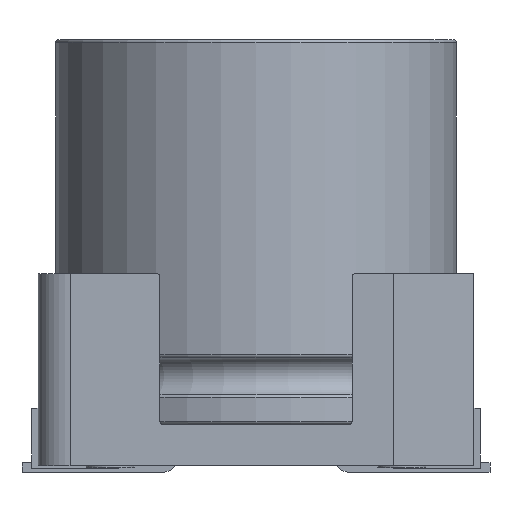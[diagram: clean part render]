
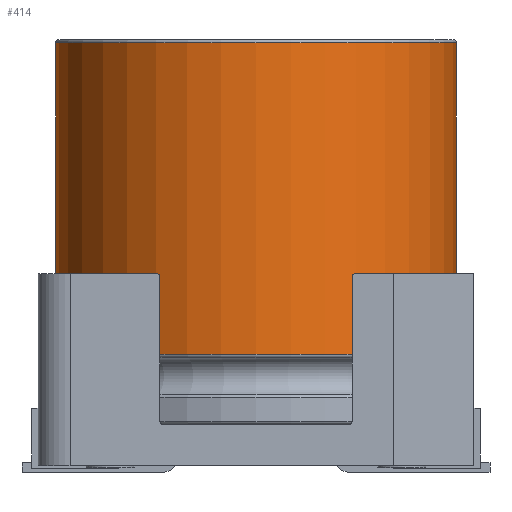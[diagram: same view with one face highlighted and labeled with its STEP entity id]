
A CAD part, front view. The second image highlights one B-rep face of the part: STEP entity #414.
In plain terms, the highlighted cylindrical face has radius 6.25 mm (diameter 12.5 mm), a full revolution.
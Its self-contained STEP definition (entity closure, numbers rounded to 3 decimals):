
#144=CYLINDRICAL_SURFACE('',#3352,6.25);
#414=ADVANCED_FACE('',(#1339,#1340),#144,.T.);
#1339=FACE_BOUND('',#1421,.T.);
#1340=FACE_BOUND('',#1422,.T.);
#1421=EDGE_LOOP('',(#1851));
#1422=EDGE_LOOP('',(#1852));
#1851=ORIENTED_EDGE('',*,*,#2887,.T.);
#1852=ORIENTED_EDGE('',*,*,#2888,.T.);
#2551=VERTEX_POINT('',#4866);
#2552=VERTEX_POINT('',#4868);
#2887=EDGE_CURVE('',#2551,#2551,#3197,.T.);
#2888=EDGE_CURVE('',#2552,#2552,#3198,.T.);
#3197=CIRCLE('',#3350,6.25);
#3198=CIRCLE('',#3351,6.25);
#3350=AXIS2_PLACEMENT_3D('',#4865,#3840,#3841);
#3351=AXIS2_PLACEMENT_3D('',#4867,#3842,#3843);
#3352=AXIS2_PLACEMENT_3D('',#4869,#3844,#3845);
#3840=DIRECTION('',(0.,0.,1.));
#3841=DIRECTION('',(1.,0.,0.));
#3842=DIRECTION('',(0.,0.,-1.));
#3843=DIRECTION('',(-1.,0.,0.));
#3844=DIRECTION('',(0.,0.,-1.));
#3845=DIRECTION('',(-1.,0.,0.));
#4865=CARTESIAN_POINT('',(0.,0.,3.478));
#4866=CARTESIAN_POINT('',(6.25,0.,3.478));
#4867=CARTESIAN_POINT('',(0.,0.,13.2));
#4868=CARTESIAN_POINT('',(-6.25,0.,13.2));
#4869=CARTESIAN_POINT('',(0.,0.,0.));
